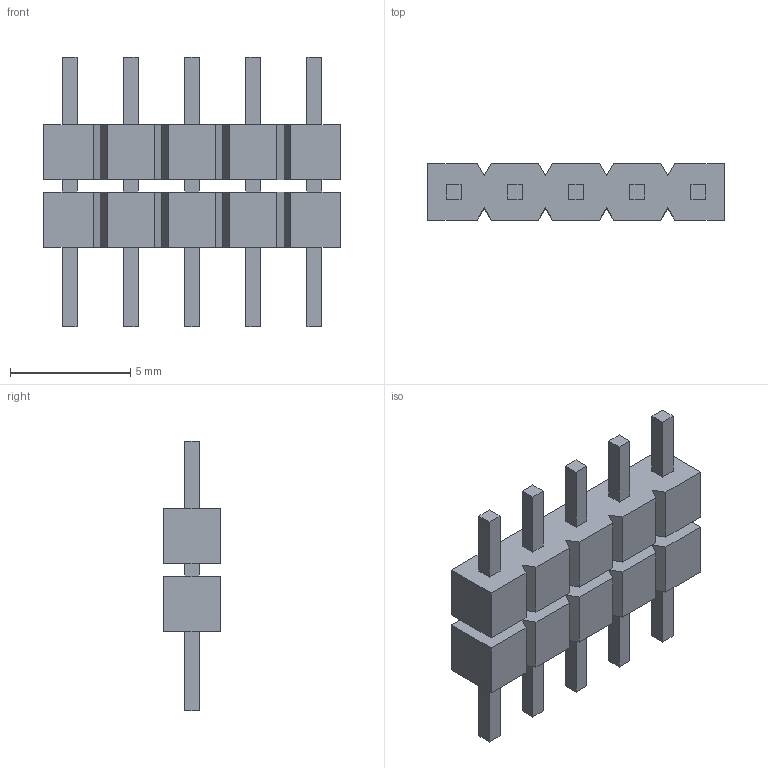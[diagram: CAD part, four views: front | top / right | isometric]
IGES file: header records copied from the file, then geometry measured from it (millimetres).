
Start section:  PTC IGES file: c-5-146455-5-b-3d.igs
Global section: file name: c-5-146455-5-b-3d.igs; native system: Creo Parametric by PTC Inc.; preprocessor: 2016050; author: workeradm; organization: Unknown; units: millimetre
Bounding box: 12.29 x 2.34 x 11.18 mm (x, y, z)
Surface area: 343.7 mm2 (no closed solid volume)
Topology: 0 solids, 0 shells, 130 faces, 696 edges, 696 vertices
Faces by surface type: bspline 130
